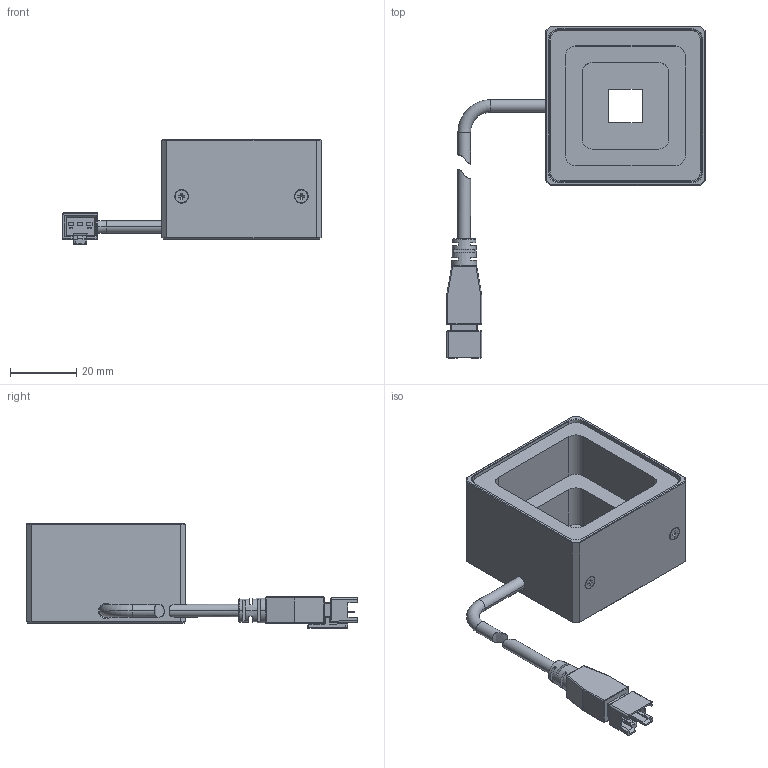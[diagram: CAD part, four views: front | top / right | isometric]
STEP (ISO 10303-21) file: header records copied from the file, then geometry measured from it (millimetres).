
FILE_DESCRIPTION((''),'2;1');
FILE_NAME('P-FQ-48_ASM','2022-07-19T16:26:41',('RD01'),(''),'CREO PARAMETRIC BY PTC INC, 2020053','CREO PARAMETRIC BY PTC INC, 2020053','');
FILE_SCHEMA(('CONFIG_CONTROL_DESIGN'));
Length unit declared in the file: millimetre
Products named in the file (9): P-FQ-48-003; P-FQ-48-PCBA; P-FQ-48-GUIJIAO; P-FQ-48-001; P-FQ-48-002; LINE_TOU-_TM; M2X4_GB; ZADAI; P-FQ-48_ASM
Assembly tree (13 placements, depth 2):
  P-FQ-48_ASM
    P-FQ-48-003
    P-FQ-48-PCBA
    P-FQ-48-GUIJIAO
    P-FQ-48-001
    P-FQ-48-002
    LINE_TOU-_TM
    M2X4_GB  x6
    ZADAI
Bounding box: 77.75 x 99.81 x 31.54 mm (x, y, z)
Volume: 37521 mm3; surface area: 35469.2 mm2
Topology: 14 solids, 30 shells, 834 faces, 2103 edges, 1351 vertices
Faces by surface type: plane 511, cylinder 223, cone 48, torus 34, bspline 8, sphere 8, extrusion 2
Entity records: 20217 total; most frequent: CARTESIAN_POINT 3825, DIRECTION 3387, ORIENTED_EDGE 3270, EDGE_CURVE 1657, VECTOR 1207, LINE 1205, AXIS2_PLACEMENT_3D 1090, VERTEX_POINT 1071
